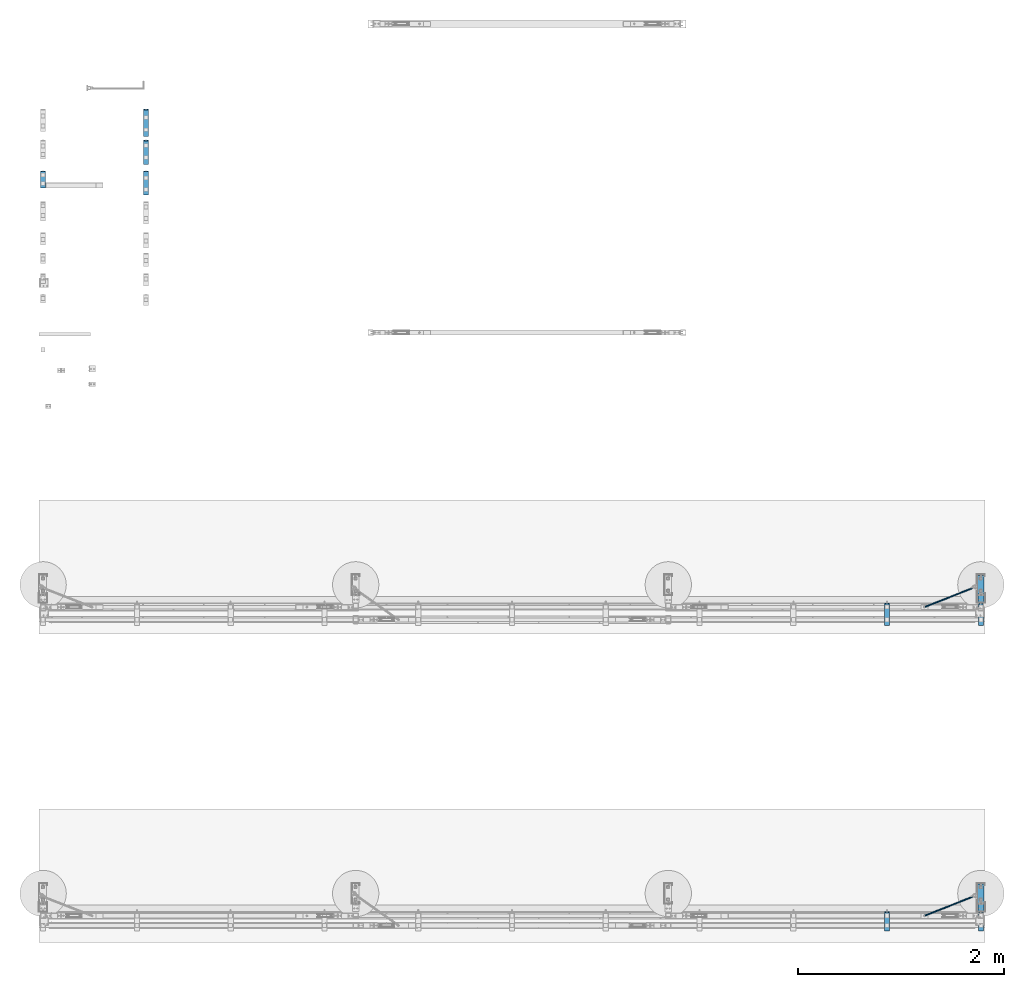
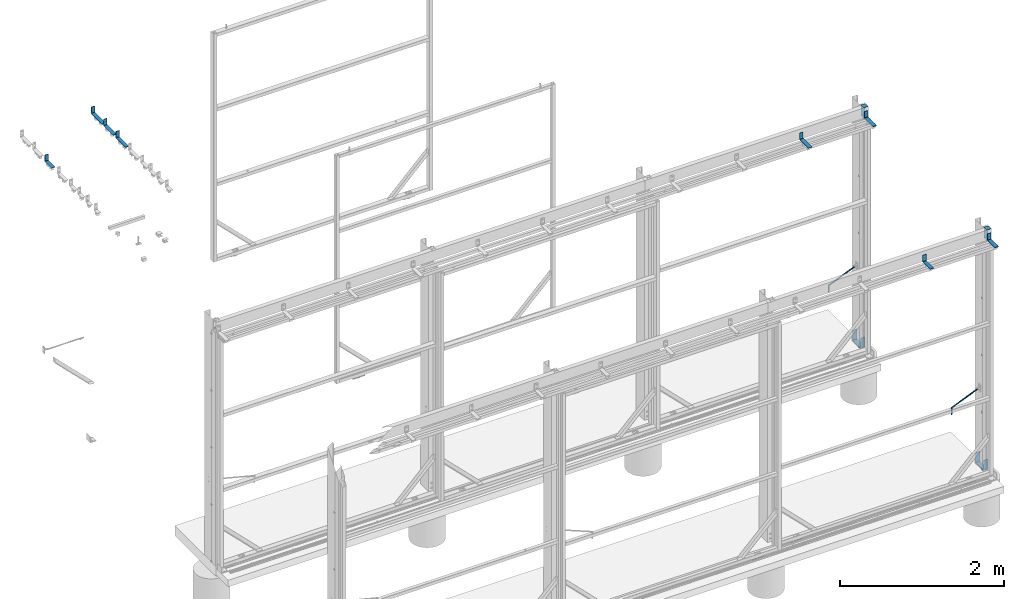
# One storey, part 83 of 91: 14 beams, 14 elements without a shape of their own.
"""IFC2X3 building model written with IfcOpenShell, lengths in millimetres."""

import ifcopenshell
import ifcopenshell.guid

model = None  # the IFC model being written
_history = None  # IfcOwnerHistory: only IFC2X3 demands one
_inside = {}  # id of a spatial element -> (the spatial element, [elements in it])
_under = {}  # id of a project, library or spatial element -> (it, [spatial elements below it])
_declared = {}  # id of a project -> (the project, [libraries it declares])
_typed = {}  # id of a type object -> (the type object, [elements of that type])
_made_of = {}  # id of a material, layer set ... -> (it, [elements and type objects made of it])


def new_model(schema):
    """Start an empty IFC model of exactly this schema.

    Asked for "IFC4X3", IfcOpenShell would pick the latest addendum, in which some entities
    have other attributes; the version numbers below select the first issue.
    IFC2X3 requires an IfcOwnerHistory on every rooted entity: one is made here for all.
    """
    global model, _history
    if schema == "IFC4X3":
        model = ifcopenshell.file(schema_version=(4, 3, 0, 0))
    else:
        model = ifcopenshell.file(schema=schema)
    _inside.clear()
    _under.clear()
    _declared.clear()
    _typed.clear()
    _made_of.clear()
    _history = None
    if model.schema == "IFC2X3":
        org = make("IfcOrganization", Name="unknown")
        user = make(
            "IfcPersonAndOrganization",
            ThePerson=make("IfcPerson", FamilyName="unknown"),
            TheOrganization=org,
        )
        app = make(
            "IfcApplication",
            ApplicationDeveloper=org,
            Version="unknown",
            ApplicationFullName="unknown",
            ApplicationIdentifier="unknown",
        )
        _history = make(
            "IfcOwnerHistory",
            OwningUser=user,
            OwningApplication=app,
            ChangeAction="ADDED",
            CreationDate=0,
        )
    return model


def make(cls, **values):
    """One entity of the class cls with the attributes given. An attribute that is None is left unset."""
    return model.create_entity(
        cls, **{name: value for name, value in values.items() if value is not None}
    )


def rooted(cls, **values):
    """An entity with a GlobalId (a new one), such as an element, a storey or a relation."""
    return make(cls, GlobalId=ifcopenshell.guid.new(), OwnerHistory=_history, **values)


def si_unit(unit_type, name, prefix=None):
    """IfcSIUnit, for example si_unit("LENGTHUNIT", "METRE", prefix="MILLI")."""
    return make("IfcSIUnit", UnitType=unit_type, Prefix=prefix, Name=name)


def assignment(units):
    """IfcUnitAssignment: the units of a project."""
    return None if units is None else make("IfcUnitAssignment", Units=units)


def point(xyz):
    """IfcCartesianPoint."""
    return None if xyz is None else make("IfcCartesianPoint", Coordinates=xyz)


def direction(xyz):
    """IfcDirection."""
    return None if xyz is None else make("IfcDirection", DirectionRatios=xyz)


def frame(location, z_axis=None, x_axis=None):
    """IfcAxis2Placement3D, a coordinate frame: its origin and axes. An axis left out is left unset."""
    return make(
        "IfcAxis2Placement3D",
        Location=point(location),
        Axis=direction(z_axis),
        RefDirection=direction(x_axis),
    )


def origin_with_axes():
    """The frame at (0, 0, 0) with the z axis (0, 0, 1) and the x axis (1, 0, 0) written out."""
    return frame((0.0, 0.0, 0.0), z_axis=(0.0, 0.0, 1.0), x_axis=(1.0, 0.0, 0.0))


def place(relative_to, where):
    """IfcLocalPlacement: puts the frame where relative to a parent placement (None: the world)."""
    return make(
        "IfcLocalPlacement", PlacementRelTo=relative_to, RelativePlacement=where
    )


def context(
    kind, dimensions, precision=None, world=None, true_north=None, identifier=None
):
    """IfcGeometricRepresentationContext, for example the 3D "Model" context."""
    return make(
        "IfcGeometricRepresentationContext",
        ContextIdentifier=identifier,
        ContextType=kind,
        CoordinateSpaceDimension=dimensions,
        Precision=precision,
        WorldCoordinateSystem=world,
        TrueNorth=true_north,
    )


def subcontext(parent, identifier, kind, view, scale=None):
    """IfcGeometricRepresentationSubContext, for example "Body" below "Model"."""
    return make(
        "IfcGeometricRepresentationSubContext",
        ContextIdentifier=identifier,
        ContextType=kind,
        ParentContext=parent,
        TargetScale=scale,
        TargetView=view,
    )


def project(units=None, contexts=None):
    """IfcProject with its units and contexts."""
    return rooted(
        "IfcProject",
        Name="project",
        RepresentationContexts=contexts,
        UnitsInContext=assignment(units),
    )


def spatial(cls, under=None, at=None, **own):
    """A site, building, storey or space (cls), placed at a placement, below another one or the project."""
    s = rooted(cls, ObjectPlacement=at, **own)
    if under is not None:
        _under.setdefault(under.id(), (under, []))[1].append(s)
    return s


def faces_of(points, faces, orient=None, outer=None):
    """IfcFace entities. A face is a list of loops; a loop is a list of indices into points, from 0.

    orient and outer hold one flag for each loop. By default every Orientation is true, the
    first loop of a face is its IfcFaceOuterBound and the others are IfcFaceBound.
    """
    made = []
    for i, loops in enumerate(faces):
        bounds = []
        for j, loop in enumerate(loops):
            is_outer = j == 0 if outer is None else outer[i][j]
            bounds.append(
                make(
                    "IfcFaceOuterBound" if is_outer else "IfcFaceBound",
                    Bound=make("IfcPolyLoop", Polygon=[points[k] for k in loop]),
                    Orientation=True if orient is None else orient[i][j],
                )
            )
        made.append(make("IfcFace", Bounds=bounds))
    return made


def faceted_brep(points, faces, orient=None, outer=None, voids=None):
    """IfcFacetedBrep: a solid bounded by flat faces; with voids (closed shells), ...WithVoids."""
    shared = [point(p) for p in points]
    hull = make("IfcClosedShell", CfsFaces=faces_of(shared, faces, orient, outer))
    if voids is None:
        return make("IfcFacetedBrep", Outer=hull)
    return make(
        "IfcFacetedBrepWithVoids",
        Outer=hull,
        Voids=[
            make(cls, CfsFaces=faces_of(shared, fs, o, b)) for cls, fs, o, b in voids
        ],
    )


def shape(context_of_items, identifier, shape_type, items):
    """IfcShapeRepresentation: the items that make up one representation, for example the "Body"."""
    return make(
        "IfcShapeRepresentation",
        ContextOfItems=context_of_items,
        RepresentationIdentifier=identifier,
        RepresentationType=shape_type,
        Items=items,
    )


def material(Name=None, Category=None):
    """IfcMaterial."""
    return make("IfcMaterial", Name=Name, Category=Category)


def made_of(thing, what):
    """Note that an element or type object is made of a material, layer set ...; save() writes the relation."""
    if what is not None:
        _made_of.setdefault(what.id(), (what, []))[1].append(thing)
    return thing


def type_object(cls, material=None, **own):
    """A type object (cls), such as IfcWallType, which elements share."""
    return made_of(rooted(cls, **own), material)


def element(
    cls,
    number,
    at=None,
    inside=None,
    cuts=None,
    type_object=None,
    material=None,
    context=None,
    identifier="Body",
    shape_type=None,
    held_by="IfcProductDefinitionShape",
    body=None,
    shapes=None,
    **own,
):
    """One element of the class cls, such as IfcWall. Its Tag is "e" and its number.

    at: its placement. inside: the storey or other place that contains it. cuts: it is an
    opening in that element (IfcRelVoidsElement). A single representation is given by context,
    identifier, shape_type and body (its items); several are given by shapes. held_by: the class
    of the entity that holds the representations. save() writes the other relations.
    """
    e = rooted(cls, Tag="e%d" % number, ObjectPlacement=at, **own)
    if body is not None:
        shapes = [shape(context, identifier, shape_type, body)]
    if shapes is not None:
        e.Representation = make(held_by, Representations=shapes)
    if inside is not None:
        _inside.setdefault(inside.id(), (inside, []))[1].append(e)
    if cuts is not None:
        rooted(
            "IfcRelVoidsElement", RelatingBuildingElement=cuts, RelatedOpeningElement=e
        )
    if type_object is not None:
        _typed.setdefault(type_object.id(), (type_object, []))[1].append(e)
    return made_of(e, material)


def aggregate(whole, parts):
    """IfcRelAggregates: a whole, such as a stair, and the parts it consists of."""
    return rooted("IfcRelAggregates", RelatingObject=whole, RelatedObjects=parts)


def save(model, path):
    """Write the relations noted so far, then the file.

    IfcRelAggregates (storeys below a building ...), IfcRelContainedInSpatialStructure (elements
    in a storey), IfcRelDefinesByType, IfcRelAssociatesMaterial and IfcRelDeclares: one each for
    every whole, place, type object, material and project.
    """
    for whole, parts in _under.values():
        aggregate(whole, parts)
    for where, things in _inside.values():
        rooted(
            "IfcRelContainedInSpatialStructure",
            RelatedElements=things,
            RelatingStructure=where,
        )
    for kind, things in _typed.values():
        rooted("IfcRelDefinesByType", RelatedObjects=things, RelatingType=kind)
    for what, things in _made_of.values():
        rooted("IfcRelAssociatesMaterial", RelatedObjects=things, RelatingMaterial=what)
    for by, libraries in _declared.values():
        rooted("IfcRelDeclares", RelatingContext=by, RelatedDefinitions=libraries)
    model.write(path)


model = new_model("IFC2X3")

# Units and contexts
model_context = context("Model", 3, precision=1e-05, world=origin_with_axes())
body_context = subcontext(model_context, "Body", "Model", "MODEL_VIEW")
ifc_project = project(units=[si_unit("LENGTHUNIT", "METRE", prefix="MILLI"), si_unit("AREAUNIT", "SQUARE_METRE"), si_unit("VOLUMEUNIT", "CUBIC_METRE"), si_unit("MASSUNIT", "GRAM", prefix="KILO"), si_unit("TIMEUNIT", "SECOND"), si_unit("PLANEANGLEUNIT", "RADIAN"), si_unit("SOLIDANGLEUNIT", "STERADIAN"), si_unit("THERMODYNAMICTEMPERATUREUNIT", "DEGREE_CELSIUS"), si_unit("LUMINOUSINTENSITYUNIT", "LUMEN")], contexts=[model_context])

# Site, building, storey
site_placement = place(None, origin_with_axes())
site = spatial("IfcSite", under=ifc_project, at=site_placement, Name="Undefined", CompositionType="ELEMENT")
building_placement = place(site_placement, origin_with_axes())
building = spatial("IfcBuilding", under=site, at=building_placement, Name="Undefined", CompositionType="ELEMENT")
storey_placement = place(building_placement, origin_with_axes())
storey = spatial("IfcBuildingStorey", under=building, at=storey_placement, Name="Undefined", CompositionType="ELEMENT", Elevation=0.0)

# Assembly, beam
assembly_1_placement = place(storey_placement, origin_with_axes())
assembly_1 = element("IfcElementAssembly", 1, at=assembly_1_placement, inside=storey, Name="SLIDING DOOR BRACKET", AssemblyPlace="NOTDEFINED", PredefinedType="RIGID_FRAME")
ifc_material_1 = material(Name="STEEL/250")
beam_type_1 = type_object("IfcBeamType", Name="FL6*50", PredefinedType="NOTDEFINED")
beam_1_placement = place(assembly_1_placement, frame((-115795.84, 92549.15, 3541.0), z_axis=(1.0, 0.0, 0.0), x_axis=(0.0, 0.0, -1.0)))
beam_1 = element("IfcBeam", 2, at=beam_1_placement, type_object=beam_type_1, material=ifc_material_1, Name="SLIDING DOOR BRACKET", ObjectType="FL6*50", context=body_context, shape_type="Brep", body=[
    faceted_brep([(0.0, 3.0, -25.0), (0.0, 3.0, 25.0), (88.0, 3.0, 25.0), (88.0000000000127, 3.00000000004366, -25.0), (0.0, -3.0, 25.0), (0.0, -3.0, -25.0), (88.0, -3.0, -25.0), (88.0, -3.0, 25.0), (93.9999999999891, 1.39230484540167, 25.0), (93.9999999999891, 1.39230484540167, -25.0), (90.9999999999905, -3.8038475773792, -25.0), (90.9999999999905, -3.8038475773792, 25.0), (93.1961524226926, -6.00000000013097, -25.0), (93.1961524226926, -6.00000000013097, 25.0), (98.3923048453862, -3.00000000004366, 25.0), (98.3923048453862, -3.00000000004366, -25.0), (93.9999999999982, -9.00000000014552, -25.0), (93.9999999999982, -9.00000000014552, 25.0), (100.000000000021, -9.00000000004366, 25.0), (100.0, -9.0, -25.0), (100.0, -264.0, 25.0), (100.0, -264.0, -25.0), (94.0, -264.0, 25.0), (94.0, -264.0, -25.0)], [[[0, 1, 2, 3]], [[4, 5, 6, 7]], [[5, 4, 1, 0]], [[3, 2, 8, 9]], [[7, 6, 10, 11]], [[10, 12, 13, 11]], [[8, 14, 15, 9]], [[12, 16, 17, 13]], [[14, 18, 19, 15]], [[19, 18, 20, 21]], [[18, 14, 8, 2, 1, 4, 7, 11, 13, 17, 22, 20]], [[17, 16, 23, 22]], [[16, 12, 10, 6, 5, 0, 3, 9, 15, 19, 21, 23]], [[22, 23, 21, 20]]]),
])
aggregate(assembly_1, [beam_1])

assembly_2_placement = place(storey_placement, origin_with_axes())
assembly_2 = element("IfcElementAssembly", 3, at=assembly_2_placement, inside=storey, Name="SLIDING DOOR BRACKET", AssemblyPlace="NOTDEFINED", PredefinedType="RIGID_FRAME")
beam_2_placement = place(assembly_2_placement, frame((-115795.84, 92249.15, 3541.0), z_axis=(1.0, 0.0, 0.0), x_axis=(0.0, 0.0, -1.0)))
beam_2 = element("IfcBeam", 4, at=beam_2_placement, type_object=beam_type_1, material=ifc_material_1, Name="SLIDING DOOR BRACKET", ObjectType="FL6*50", context=body_context, shape_type="Brep", body=[
    faceted_brep([(0.0, 3.0, -25.0), (0.0, 3.0, 25.0), (88.0, 3.0, 25.0), (88.0000000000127, 3.00000000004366, -25.0), (0.0, -3.0, 25.0), (0.0, -3.0, -25.0), (88.0, -3.0, -25.0), (88.0, -3.0, 25.0), (93.9999999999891, 1.39230484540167, 25.0), (93.9999999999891, 1.39230484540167, -25.0), (90.9999999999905, -3.8038475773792, -25.0), (90.9999999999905, -3.8038475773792, 25.0), (93.1961524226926, -6.00000000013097, -25.0), (93.1961524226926, -6.00000000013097, 25.0), (98.3923048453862, -3.00000000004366, 25.0), (98.3923048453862, -3.00000000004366, -25.0), (93.9999999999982, -9.00000000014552, -25.0), (93.9999999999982, -9.00000000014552, 25.0), (100.000000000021, -9.00000000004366, 25.0), (100.0, -9.0, -25.0), (100.0, -235.0, 25.0), (100.0, -235.0, -25.0), (94.0, -235.0, 25.0), (94.0, -235.0, -25.0)], [[[0, 1, 2, 3]], [[4, 5, 6, 7]], [[5, 4, 1, 0]], [[3, 2, 8, 9]], [[7, 6, 10, 11]], [[10, 12, 13, 11]], [[8, 14, 15, 9]], [[12, 16, 17, 13]], [[14, 18, 19, 15]], [[19, 18, 20, 21]], [[18, 14, 8, 2, 1, 4, 7, 11, 13, 17, 22, 20]], [[17, 16, 23, 22]], [[16, 12, 10, 6, 5, 0, 3, 9, 15, 19, 21, 23]], [[22, 23, 21, 20]]]),
])
aggregate(assembly_2, [beam_2])

assembly_3_placement = place(storey_placement, origin_with_axes())
assembly_3 = element("IfcElementAssembly", 5, at=assembly_3_placement, inside=storey, Name="SLIDING DOOR BRACKET", AssemblyPlace="NOTDEFINED", PredefinedType="RIGID_FRAME")
beam_3_placement = place(assembly_3_placement, frame((-115795.84, 91949.15, 3541.0), z_axis=(1.0, 0.0, 0.0), x_axis=(0.0, 0.0, -1.0)))
beam_3 = element("IfcBeam", 6, at=beam_3_placement, type_object=beam_type_1, material=ifc_material_1, Name="SLIDING DOOR BRACKET", ObjectType="FL6*50", context=body_context, shape_type="Brep", body=[
    faceted_brep([(0.0, 3.0, -25.0), (0.0, 3.0, 25.0), (88.0, 3.0, 25.0), (88.0000000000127, 3.00000000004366, -25.0), (0.0, -3.0, 25.0), (0.0, -3.0, -25.0), (88.0, -3.0, -25.0), (88.0, -3.0, 25.0), (93.9999999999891, 1.39230484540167, 25.0), (93.9999999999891, 1.39230484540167, -25.0), (90.9999999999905, -3.8038475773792, -25.0), (90.9999999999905, -3.8038475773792, 25.0), (93.1961524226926, -6.00000000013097, -25.0), (93.1961524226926, -6.00000000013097, 25.0), (98.3923048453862, -3.00000000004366, 25.0), (98.3923048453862, -3.00000000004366, -25.0), (93.9999999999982, -9.00000000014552, -25.0), (93.9999999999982, -9.00000000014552, 25.0), (100.000000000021, -9.00000000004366, 25.0), (100.0, -9.0, -25.0), (100.0, -234.0, 25.0), (100.0, -234.0, -25.0), (94.0, -234.0, 25.0), (94.0, -234.0, -25.0)], [[[0, 1, 2, 3]], [[4, 5, 6, 7]], [[5, 4, 1, 0]], [[3, 2, 8, 9]], [[7, 6, 10, 11]], [[10, 12, 13, 11]], [[8, 14, 15, 9]], [[12, 16, 17, 13]], [[14, 18, 19, 15]], [[19, 18, 20, 21]], [[18, 14, 8, 2, 1, 4, 7, 11, 13, 17, 22, 20]], [[17, 16, 23, 22]], [[16, 12, 10, 6, 5, 0, 3, 9, 15, 19, 21, 23]], [[22, 23, 21, 20]]]),
])
aggregate(assembly_3, [beam_3])

assembly_4_placement = place(storey_placement, origin_with_axes())
assembly_4 = element("IfcElementAssembly", 7, at=assembly_4_placement, inside=storey, Name="SLIDING DOOR BRACKET", AssemblyPlace="NOTDEFINED", PredefinedType="RIGID_FRAME")
beam_4_placement = place(assembly_4_placement, frame((-116795.84, 91949.15, 3541.0), z_axis=(1.0, 0.0, 0.0), x_axis=(0.0, 0.0, -1.0)))
beam_4 = element("IfcBeam", 8, at=beam_4_placement, type_object=beam_type_1, material=ifc_material_1, Name="SLIDING DOOR BRACKET", ObjectType="FL6*50", context=body_context, shape_type="Brep", body=[
    faceted_brep([(0.0, 3.0, -25.0), (0.0, 3.0, 25.0), (88.0, 3.0, 25.0), (88.0000000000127, 3.00000000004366, -25.0), (0.0, -3.0, 25.0), (0.0, -3.0, -25.0), (88.0, -3.0, -25.0), (88.0, -3.0, 25.0), (93.9999999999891, 1.39230484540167, 25.0), (93.9999999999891, 1.39230484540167, -25.0), (90.9999999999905, -3.8038475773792, -25.0), (90.9999999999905, -3.8038475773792, 25.0), (93.1961524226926, -6.00000000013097, -25.0), (93.1961524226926, -6.00000000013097, 25.0), (98.3923048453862, -3.00000000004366, 25.0), (98.3923048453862, -3.00000000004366, -25.0), (93.9999999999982, -9.00000000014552, -25.0), (93.9999999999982, -9.00000000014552, 25.0), (100.000000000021, -9.00000000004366, 25.0), (100.0, -9.0, -25.0), (100.0, -165.0, 25.0), (100.0, -165.0, -25.0), (94.0, -165.0, 25.0), (94.0, -165.0, -25.0)], [[[0, 1, 2, 3]], [[4, 5, 6, 7]], [[5, 4, 1, 0]], [[3, 2, 8, 9]], [[7, 6, 10, 11]], [[10, 12, 13, 11]], [[8, 14, 15, 9]], [[12, 16, 17, 13]], [[14, 18, 19, 15]], [[19, 18, 20, 21]], [[18, 14, 8, 2, 1, 4, 7, 11, 13, 17, 22, 20]], [[17, 16, 23, 22]], [[16, 12, 10, 6, 5, 0, 3, 9, 15, 19, 21, 23]], [[22, 23, 21, 20]]]),
])
aggregate(assembly_4, [beam_4])

assembly_5_placement = place(storey_placement, origin_with_axes())
assembly_5 = element("IfcElementAssembly", 9, at=assembly_5_placement, inside=storey, Name="DOOR BRACKET", AssemblyPlace="NOTDEFINED", PredefinedType="RIGID_FRAME")
beam_5_placement = place(assembly_5_placement, frame((-108594.59, 87749.15, 3544.0), z_axis=(1.0, 0.0, 0.0), x_axis=(0.0, 0.0, -1.0)))
beam_5 = element("IfcBeam", 10, at=beam_5_placement, type_object=beam_type_1, material=ifc_material_1, Name="DOOR BRACKET", ObjectType="FL6*50", context=body_context, shape_type="Brep", body=[
    faceted_brep([(0.0, 3.0, -25.0), (0.0, 3.0, 25.0), (88.0, 3.0, 25.0), (88.0000000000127, 3.00000000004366, -25.0), (0.0, -3.0, 25.0), (0.0, -3.0, -25.0), (88.0, -3.0, -25.0), (88.0, -3.0, 25.0), (93.9999999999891, 1.39230484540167, 25.0), (93.9999999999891, 1.39230484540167, -25.0), (90.9999999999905, -3.8038475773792, -25.0), (90.9999999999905, -3.8038475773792, 25.0), (93.1961524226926, -6.00000000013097, -25.0), (93.1961524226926, -6.00000000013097, 25.0), (98.3923048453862, -3.00000000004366, 25.0), (98.3923048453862, -3.00000000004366, -25.0), (93.9999999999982, -9.00000000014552, -25.0), (93.9999999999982, -9.00000000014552, 25.0), (100.000000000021, -9.00000000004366, 25.0), (100.0, -9.0, -25.0), (100.0, -215.0, 25.0), (100.0, -215.0, -25.0), (94.0, -215.0, 25.0), (94.0, -215.0, -25.0)], [[[0, 1, 2, 3]], [[4, 5, 6, 7]], [[5, 4, 1, 0]], [[3, 2, 8, 9]], [[7, 6, 10, 11]], [[10, 12, 13, 11]], [[8, 14, 15, 9]], [[12, 16, 17, 13]], [[14, 18, 19, 15]], [[19, 18, 20, 21]], [[18, 14, 8, 2, 1, 4, 7, 11, 13, 17, 22, 20]], [[17, 16, 23, 22]], [[16, 12, 10, 6, 5, 0, 3, 9, 15, 19, 21, 23]], [[22, 23, 21, 20]]]),
])
aggregate(assembly_5, [beam_5])

assembly_6_placement = place(storey_placement, origin_with_axes())
assembly_6 = element("IfcElementAssembly", 11, at=assembly_6_placement, inside=storey, Name="DOOR BRACKET", AssemblyPlace="NOTDEFINED", PredefinedType="RIGID_FRAME")
beam_6_placement = place(assembly_6_placement, frame((-107683.34, 87749.15, 3544.0), z_axis=(1.0, 0.0, 0.0), x_axis=(0.0, 0.0, -1.0)))
beam_6 = element("IfcBeam", 12, at=beam_6_placement, type_object=beam_type_1, material=ifc_material_1, Name="DOOR BRACKET", ObjectType="FL6*50", context=body_context, shape_type="Brep", body=[
    faceted_brep([(0.0, 3.0, -25.0), (0.0, 3.0, 25.0), (88.0, 3.0, 25.0), (88.0000000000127, 3.00000000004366, -25.0), (0.0, -3.0, 25.0), (0.0, -3.0, -25.0), (88.0, -3.0, -25.0), (88.0, -3.0, 25.0), (93.9999999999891, 1.39230484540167, 25.0), (93.9999999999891, 1.39230484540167, -25.0), (90.9999999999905, -3.8038475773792, -25.0), (90.9999999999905, -3.8038475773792, 25.0), (93.1961524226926, -6.00000000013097, -25.0), (93.1961524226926, -6.00000000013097, 25.0), (98.3923048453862, -3.00000000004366, 25.0), (98.3923048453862, -3.00000000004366, -25.0), (93.9999999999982, -9.00000000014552, -25.0), (93.9999999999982, -9.00000000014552, 25.0), (100.000000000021, -9.00000000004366, 25.0), (100.0, -9.0, -25.0), (100.0, -215.0, 25.0), (100.0, -215.0, -25.0), (94.0, -215.0, 25.0), (94.0, -215.0, -25.0)], [[[0, 1, 2, 3]], [[4, 5, 6, 7]], [[5, 4, 1, 0]], [[3, 2, 8, 9]], [[7, 6, 10, 11]], [[10, 12, 13, 11]], [[8, 14, 15, 9]], [[12, 16, 17, 13]], [[14, 18, 19, 15]], [[19, 18, 20, 21]], [[18, 14, 8, 2, 1, 4, 7, 11, 13, 17, 22, 20]], [[17, 16, 23, 22]], [[16, 12, 10, 6, 5, 0, 3, 9, 15, 19, 21, 23]], [[22, 23, 21, 20]]]),
])
aggregate(assembly_6, [beam_6])

assembly_7_placement = place(storey_placement, origin_with_axes())
assembly_7 = element("IfcElementAssembly", 13, at=assembly_7_placement, inside=storey, Name="DOOR BRACKET", AssemblyPlace="NOTDEFINED", PredefinedType="RIGID_FRAME")
beam_7_placement = place(assembly_7_placement, frame((-108594.59, 84749.15, 3544.0), z_axis=(1.0, 0.0, 0.0), x_axis=(0.0, 0.0, -1.0)))
beam_7 = element("IfcBeam", 14, at=beam_7_placement, type_object=beam_type_1, material=ifc_material_1, Name="DOOR BRACKET", ObjectType="FL6*50", context=body_context, shape_type="Brep", body=[
    faceted_brep([(0.0, 3.0, -25.0), (0.0, 3.0, 25.0), (88.0, 3.0, 25.0), (88.0000000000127, 3.00000000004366, -25.0), (0.0, -3.0, 25.0), (0.0, -3.0, -25.0), (88.0, -3.0, -25.0), (88.0, -3.0, 25.0), (93.9999999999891, 1.39230484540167, 25.0), (93.9999999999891, 1.39230484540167, -25.0), (90.9999999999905, -3.8038475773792, -25.0), (90.9999999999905, -3.8038475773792, 25.0), (93.1961524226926, -6.00000000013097, -25.0), (93.1961524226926, -6.00000000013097, 25.0), (98.3923048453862, -3.00000000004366, 25.0), (98.3923048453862, -3.00000000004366, -25.0), (93.9999999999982, -9.00000000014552, -25.0), (93.9999999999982, -9.00000000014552, 25.0), (100.000000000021, -9.00000000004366, 25.0), (100.0, -9.0, -25.0), (100.0, -185.0, 25.0), (100.0, -185.0, -25.0), (94.0, -185.0, 25.0), (94.0, -185.0, -25.0)], [[[0, 1, 2, 3]], [[4, 5, 6, 7]], [[5, 4, 1, 0]], [[3, 2, 8, 9]], [[7, 6, 10, 11]], [[10, 12, 13, 11]], [[8, 14, 15, 9]], [[12, 16, 17, 13]], [[14, 18, 19, 15]], [[19, 18, 20, 21]], [[18, 14, 8, 2, 1, 4, 7, 11, 13, 17, 22, 20]], [[17, 16, 23, 22]], [[16, 12, 10, 6, 5, 0, 3, 9, 15, 19, 21, 23]], [[22, 23, 21, 20]]]),
])
aggregate(assembly_7, [beam_7])

assembly_8_placement = place(storey_placement, origin_with_axes())
assembly_8 = element("IfcElementAssembly", 15, at=assembly_8_placement, inside=storey, Name="DOOR BRACKET", AssemblyPlace="NOTDEFINED", PredefinedType="RIGID_FRAME")
beam_8_placement = place(assembly_8_placement, frame((-107683.34, 84749.15, 3544.0), z_axis=(1.0, 0.0, 0.0), x_axis=(0.0, 0.0, -1.0)))
beam_8 = element("IfcBeam", 16, at=beam_8_placement, type_object=beam_type_1, material=ifc_material_1, Name="DOOR BRACKET", ObjectType="FL6*50", context=body_context, shape_type="Brep", body=[
    faceted_brep([(0.0, 3.0, -25.0), (0.0, 3.0, 25.0), (88.0, 3.0, 25.0), (88.0000000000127, 3.00000000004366, -25.0), (0.0, -3.0, 25.0), (0.0, -3.0, -25.0), (88.0, -3.0, -25.0), (88.0, -3.0, 25.0), (93.9999999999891, 1.39230484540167, 25.0), (93.9999999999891, 1.39230484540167, -25.0), (90.9999999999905, -3.8038475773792, -25.0), (90.9999999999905, -3.8038475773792, 25.0), (93.1961524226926, -6.00000000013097, -25.0), (93.1961524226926, -6.00000000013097, 25.0), (98.3923048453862, -3.00000000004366, 25.0), (98.3923048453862, -3.00000000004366, -25.0), (93.9999999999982, -9.00000000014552, -25.0), (93.9999999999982, -9.00000000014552, 25.0), (100.000000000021, -9.00000000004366, 25.0), (100.0, -9.0, -25.0), (100.0, -185.0, 25.0), (100.0, -185.0, -25.0), (94.0, -185.0, 25.0), (94.0, -185.0, -25.0)], [[[0, 1, 2, 3]], [[4, 5, 6, 7]], [[5, 4, 1, 0]], [[3, 2, 8, 9]], [[7, 6, 10, 11]], [[10, 12, 13, 11]], [[8, 14, 15, 9]], [[12, 16, 17, 13]], [[14, 18, 19, 15]], [[19, 18, 20, 21]], [[18, 14, 8, 2, 1, 4, 7, 11, 13, 17, 22, 20]], [[17, 16, 23, 22]], [[16, 12, 10, 6, 5, 0, 3, 9, 15, 19, 21, 23]], [[22, 23, 21, 20]]]),
])
aggregate(assembly_8, [beam_8])

assembly_9_placement = place(storey_placement, origin_with_axes())
assembly_9 = element("IfcElementAssembly", 17, at=assembly_9_placement, inside=storey, Name="ROD", AssemblyPlace="NOTDEFINED", PredefinedType="RIGID_FRAME")
beam_type_2 = type_object("IfcBeamType", Name="D12", PredefinedType="NOTDEFINED")
beam_9_placement = place(assembly_9_placement, frame((-108233.217371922, 87712.1870489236, 1062.33560984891), z_axis=(-0.931124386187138, -0.364701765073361, 0.0), x_axis=(0.0, 0.0, 1.0)))
beam_9 = element("IfcBeam", 18, at=beam_9_placement, type_object=beam_type_2, material=ifc_material_1, Name="ROD", ObjectType="D12", context=body_context, shape_type="Brep", body=[
    faceted_brep([(0.0, -6.0, 0.0), (-1.13686837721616e-12, -4.24264068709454, -4.24264068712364), (93.5000000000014, -4.24264068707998, -4.2426406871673), (93.5000000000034, -5.99999999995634, -2.91038304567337e-11), (-2.72848410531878e-12, 1.45519152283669e-11, -5.99999999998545), (93.5, 2.91038304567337e-11, -6.00000000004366), (-2.50111042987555e-12, 4.24264068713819, -4.24264068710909), (93.5000000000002, 4.2426406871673, -4.24264068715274), (0.0, 6.00000000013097, 0.0), (93.5000000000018, 6.0000000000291, -4.36557456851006e-11), (1.13686837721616e-12, 4.24264068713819, 4.24264068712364), (93.5000000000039, 4.24264068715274, 4.24264068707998), (2.72848410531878e-12, 1.45519152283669e-11, 5.99999999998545), (93.5000000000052, 4.36557456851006e-11, 5.99999999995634), (2.50111042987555e-12, -4.24264068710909, 4.24264068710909), (93.500000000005, -4.24264068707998, 4.24264068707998), (95.7573593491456, -4.24264068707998, -4.2426406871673), (100.000000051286, -5.9999999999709, -4.36557456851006e-11), (94.0, 2.91038304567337e-11, -6.00000000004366), (95.7573592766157, 4.2426406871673, -4.24264068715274), (99.9999999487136, 6.0000000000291, -4.36557456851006e-11), (104.242640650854, 4.24264068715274, 4.24264068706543), (106.0, 4.36557456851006e-11, 5.99999999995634), (104.242640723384, -4.24264068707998, 4.24264068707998), (95.7573593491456, -4.24264066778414, -6.50000003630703), (100.000000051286, -5.99999994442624, -6.50000005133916), (94.0, 4.32191882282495e-09, -6.50000000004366), (95.7573592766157, 4.24264070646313, -6.49999996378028), (99.9999999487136, 6.00000005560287, -6.49999994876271), (104.242640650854, 4.24264077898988, -6.49999996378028), (106.0, 1.06883817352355e-07, -6.50000000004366), (104.242640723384, -4.2426405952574, -6.50000003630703), (95.7573593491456, -4.24263644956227, -499.999970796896), (100.000000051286, -5.99999572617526, -499.999970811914), (94.0, 4.22252924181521e-06, -499.999970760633), (95.7573592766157, 4.24264492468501, -499.99997072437), (99.9999999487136, 6.00000427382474, -499.999970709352), (104.242640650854, 4.24264499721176, -499.999970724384), (106.0, 4.32510569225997e-06, -499.999970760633), (104.242640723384, -4.24263637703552, -499.999970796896)], [[[0, 1, 2, 3]], [[1, 4, 5, 2]], [[4, 6, 7, 5]], [[6, 8, 9, 7]], [[8, 10, 11, 9]], [[10, 12, 13, 11]], [[12, 14, 15, 13]], [[14, 0, 3, 15]], [[14, 12, 10, 8, 6, 4, 1, 0]], [[3, 2, 16, 17]], [[2, 5, 18, 16]], [[5, 7, 19, 18]], [[7, 9, 20, 19]], [[9, 11, 21, 20]], [[11, 13, 22, 21]], [[13, 15, 23, 22]], [[15, 3, 17, 23]], [[17, 16, 24, 25]], [[16, 18, 26, 24]], [[18, 19, 27, 26]], [[19, 20, 28, 27]], [[20, 21, 29, 28]], [[21, 22, 30, 29]], [[22, 23, 31, 30]], [[23, 17, 25, 31]], [[25, 24, 32, 33]], [[24, 26, 34, 32]], [[26, 27, 35, 34]], [[27, 28, 36, 35]], [[28, 29, 37, 36]], [[29, 30, 38, 37]], [[30, 31, 39, 38]], [[31, 25, 33, 39]], [[34, 35, 36, 37, 38, 39, 33, 32]]]),
])
aggregate(assembly_9, [beam_9])

assembly_10_placement = place(storey_placement, origin_with_axes())
assembly_10 = element("IfcElementAssembly", 19, at=assembly_10_placement, inside=storey, Name="ROD", AssemblyPlace="NOTDEFINED", PredefinedType="RIGID_FRAME")
beam_10_placement = place(assembly_10_placement, frame((-108233.217371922, 84712.1870489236, 1062.33560984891), z_axis=(-0.931124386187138, -0.364701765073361, 0.0), x_axis=(0.0, 0.0, 1.0)))
beam_10 = element("IfcBeam", 20, at=beam_10_placement, type_object=beam_type_2, material=ifc_material_1, Name="ROD", ObjectType="D12", context=body_context, shape_type="Brep", body=[
    faceted_brep([(0.0, -6.0, 0.0), (-1.13686837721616e-12, -4.24264068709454, -4.24264068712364), (93.5000000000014, -4.24264068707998, -4.2426406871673), (93.5000000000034, -5.99999999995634, -2.91038304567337e-11), (-2.72848410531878e-12, 1.45519152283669e-11, -5.99999999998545), (93.5, 2.91038304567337e-11, -6.00000000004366), (-2.50111042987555e-12, 4.24264068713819, -4.24264068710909), (93.5000000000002, 4.2426406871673, -4.24264068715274), (0.0, 6.00000000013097, 0.0), (93.5000000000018, 6.0000000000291, -4.36557456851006e-11), (1.13686837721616e-12, 4.24264068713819, 4.24264068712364), (93.5000000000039, 4.24264068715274, 4.24264068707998), (2.72848410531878e-12, 1.45519152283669e-11, 5.99999999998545), (93.5000000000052, 4.36557456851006e-11, 5.99999999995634), (2.50111042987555e-12, -4.24264068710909, 4.24264068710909), (93.500000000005, -4.24264068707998, 4.24264068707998), (95.7573593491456, -4.24264068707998, -4.2426406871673), (100.000000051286, -5.9999999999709, -4.36557456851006e-11), (94.0, 2.91038304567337e-11, -6.00000000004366), (95.7573592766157, 4.2426406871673, -4.24264068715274), (99.9999999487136, 6.0000000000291, -4.36557456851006e-11), (104.242640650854, 4.24264068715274, 4.24264068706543), (106.0, 4.36557456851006e-11, 5.99999999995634), (104.242640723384, -4.24264068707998, 4.24264068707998), (95.7573593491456, -4.24264066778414, -6.50000003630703), (100.000000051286, -5.99999994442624, -6.50000005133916), (94.0, 4.32191882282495e-09, -6.50000000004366), (95.7573592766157, 4.24264070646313, -6.49999996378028), (99.9999999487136, 6.00000005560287, -6.49999994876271), (104.242640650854, 4.24264077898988, -6.49999996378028), (106.0, 1.06883817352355e-07, -6.50000000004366), (104.242640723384, -4.2426405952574, -6.50000003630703), (95.7573593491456, -4.24263644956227, -499.999970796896), (100.000000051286, -5.99999572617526, -499.999970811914), (94.0, 4.22252924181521e-06, -499.999970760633), (95.7573592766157, 4.24264492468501, -499.99997072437), (99.9999999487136, 6.00000427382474, -499.999970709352), (104.242640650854, 4.24264499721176, -499.999970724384), (106.0, 4.32510569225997e-06, -499.999970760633), (104.242640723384, -4.24263637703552, -499.999970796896)], [[[0, 1, 2, 3]], [[1, 4, 5, 2]], [[4, 6, 7, 5]], [[6, 8, 9, 7]], [[8, 10, 11, 9]], [[10, 12, 13, 11]], [[12, 14, 15, 13]], [[14, 0, 3, 15]], [[14, 12, 10, 8, 6, 4, 1, 0]], [[3, 2, 16, 17]], [[2, 5, 18, 16]], [[5, 7, 19, 18]], [[7, 9, 20, 19]], [[9, 11, 21, 20]], [[11, 13, 22, 21]], [[13, 15, 23, 22]], [[15, 3, 17, 23]], [[17, 16, 24, 25]], [[16, 18, 26, 24]], [[18, 19, 27, 26]], [[19, 20, 28, 27]], [[20, 21, 29, 28]], [[21, 22, 30, 29]], [[22, 23, 31, 30]], [[23, 17, 25, 31]], [[25, 24, 32, 33]], [[24, 26, 34, 32]], [[26, 27, 35, 34]], [[27, 28, 36, 35]], [[28, 29, 37, 36]], [[29, 30, 38, 37]], [[30, 31, 39, 38]], [[31, 25, 33, 39]], [[34, 35, 36, 37, 38, 39, 33, 32]]]),
])
aggregate(assembly_10, [beam_10])

assembly_11_placement = place(storey_placement, origin_with_axes())
assembly_11 = element("IfcElementAssembly", 21, at=assembly_11_placement, inside=storey, Name="BASEPLATE", AssemblyPlace="NOTDEFINED", PredefinedType="RIGID_FRAME")
ifc_material_2 = material(Name="STEEL/450")
beam_type_3 = type_object("IfcBeamType", Name="PLT6*61", PredefinedType="NOTDEFINED")
beam_11_placement = place(assembly_11_placement, frame((-107683.34, 87831.55, 122.999999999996), z_axis=(1.0, 0.0, 0.0), x_axis=(0.0, 0.0, -1.0)))
beam_11 = element("IfcBeam", 22, at=beam_11_placement, type_object=beam_type_3, material=ifc_material_2, Name="BASEPLATE", ObjectType="PLT6*61", context=body_context, shape_type="Brep", body=[
    faceted_brep([(0.0, 3.0, -30.5), (0.0, 3.0, 30.5), (144.0, 3.0, 30.5), (143.999999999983, 3.00000000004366, -30.5), (0.0, -3.0, 30.5), (0.0, -3.0, -30.5), (144.0, -3.0, -30.5), (144.0, -3.0, 30.5), (146.500000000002, 3.66987298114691, 30.5), (146.500000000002, 3.66987298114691, -30.5), (149.500000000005, -1.52627944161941, -30.5), (149.500000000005, -1.52627944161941, 30.5), (153.526279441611, 2.50000000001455, -30.5), (153.526279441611, 2.50000000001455, 30.5), (148.330127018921, 5.50000000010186, 30.5), (148.330127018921, 5.50000000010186, -30.5), (155.000000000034, 8.00000000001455, -30.5), (155.000000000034, 8.00000000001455, 30.5), (149.000000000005, 8.00000000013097, 30.5), (149.0, 8.0, -30.5), (149.0, 186.200012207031, 30.5), (148.999999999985, 186.200012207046, -30.5), (155.0, 186.200012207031, -30.5), (155.0, 186.200012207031, 30.5), (148.330127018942, 188.700012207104, 30.5), (148.330127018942, 188.700012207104, -30.5), (153.526279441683, 191.700012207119, -30.5), (153.526279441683, 191.700012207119, 30.5), (149.500000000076, 195.726291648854, -30.5), (149.500000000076, 195.726291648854, 30.5), (146.500000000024, 190.530139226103, 30.5), (146.500000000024, 190.530139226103, -30.5), (144.000000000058, 197.200012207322, -30.5), (144.000000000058, 197.200012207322, 30.5), (143.999999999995, 191.20001220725, 30.5), (144.0, 191.200012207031, -30.5), (0.0, 191.200012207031, 30.5), (0.0, 191.200012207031, -30.5), (0.0, 197.200012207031, 30.5), (0.0, 197.200012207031, -30.5)], [[[0, 1, 2, 3]], [[4, 5, 6, 7]], [[5, 4, 1, 0]], [[3, 2, 8, 9]], [[7, 6, 10, 11]], [[10, 12, 13, 11]], [[8, 14, 15, 9]], [[12, 16, 17, 13]], [[14, 18, 19, 15]], [[19, 18, 20, 21]], [[17, 16, 22, 23]], [[21, 20, 24, 25]], [[23, 22, 26, 27]], [[26, 28, 29, 27]], [[24, 30, 31, 25]], [[28, 32, 33, 29]], [[30, 34, 35, 31]], [[35, 34, 36, 37]], [[34, 30, 24, 20, 18, 14, 8, 2, 1, 4, 7, 11, 13, 17, 23, 27, 29, 33, 38, 36]], [[33, 32, 39, 38]], [[32, 28, 26, 22, 16, 12, 10, 6, 5, 0, 3, 9, 15, 19, 21, 25, 31, 35, 37, 39]], [[38, 39, 37, 36]]]),
])
aggregate(assembly_11, [beam_11])

assembly_12_placement = place(storey_placement, origin_with_axes())
assembly_12 = element("IfcElementAssembly", 23, at=assembly_12_placement, inside=storey, Name="BASEPLATE", AssemblyPlace="NOTDEFINED", PredefinedType="RIGID_FRAME")
beam_12_placement = place(assembly_12_placement, frame((-107683.34, 84831.55, 122.999999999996), z_axis=(1.0, 0.0, 0.0), x_axis=(0.0, 0.0, -1.0)))
beam_12 = element("IfcBeam", 24, at=beam_12_placement, type_object=beam_type_3, material=ifc_material_2, Name="BASEPLATE", ObjectType="PLT6*61", context=body_context, shape_type="Brep", body=[
    faceted_brep([(0.0, 3.0, -30.5), (0.0, 3.0, 30.5), (144.0, 3.0, 30.5), (143.999999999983, 3.00000000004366, -30.5), (0.0, -3.0, 30.5), (0.0, -3.0, -30.5), (144.0, -3.0, -30.5), (144.0, -3.0, 30.5), (146.500000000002, 3.66987298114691, 30.5), (146.500000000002, 3.66987298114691, -30.5), (149.500000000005, -1.52627944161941, -30.5), (149.500000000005, -1.52627944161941, 30.5), (153.526279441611, 2.50000000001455, -30.5), (153.526279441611, 2.50000000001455, 30.5), (148.330127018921, 5.50000000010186, 30.5), (148.330127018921, 5.50000000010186, -30.5), (155.000000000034, 8.00000000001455, -30.5), (155.000000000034, 8.00000000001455, 30.5), (149.000000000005, 8.00000000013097, 30.5), (149.0, 8.0, -30.5), (149.0, 186.200012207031, 30.5), (148.999999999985, 186.200012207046, -30.5), (155.0, 186.200012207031, -30.5), (155.0, 186.200012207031, 30.5), (148.330127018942, 188.700012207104, 30.5), (148.330127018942, 188.700012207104, -30.5), (153.526279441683, 191.700012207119, -30.5), (153.526279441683, 191.700012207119, 30.5), (149.500000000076, 195.726291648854, -30.5), (149.500000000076, 195.726291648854, 30.5), (146.500000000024, 190.530139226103, 30.5), (146.500000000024, 190.530139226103, -30.5), (144.000000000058, 197.200012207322, -30.5), (144.000000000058, 197.200012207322, 30.5), (143.999999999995, 191.20001220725, 30.5), (144.0, 191.200012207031, -30.5), (0.0, 191.200012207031, 30.5), (0.0, 191.200012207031, -30.5), (0.0, 197.200012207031, 30.5), (0.0, 197.200012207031, -30.5)], [[[0, 1, 2, 3]], [[4, 5, 6, 7]], [[5, 4, 1, 0]], [[3, 2, 8, 9]], [[7, 6, 10, 11]], [[10, 12, 13, 11]], [[8, 14, 15, 9]], [[12, 16, 17, 13]], [[14, 18, 19, 15]], [[19, 18, 20, 21]], [[17, 16, 22, 23]], [[21, 20, 24, 25]], [[23, 22, 26, 27]], [[26, 28, 29, 27]], [[24, 30, 31, 25]], [[28, 32, 33, 29]], [[30, 34, 35, 31]], [[35, 34, 36, 37]], [[34, 30, 24, 20, 18, 14, 8, 2, 1, 4, 7, 11, 13, 17, 23, 27, 29, 33, 38, 36]], [[33, 32, 39, 38]], [[32, 28, 26, 22, 16, 12, 10, 6, 5, 0, 3, 9, 15, 19, 21, 25, 31, 35, 37, 39]], [[38, 39, 37, 36]]]),
])
aggregate(assembly_12, [beam_12])

assembly_13_placement = place(storey_placement, origin_with_axes())
assembly_13 = element("IfcElementAssembly", 25, at=assembly_13_placement, inside=storey, Name="FASCIA BRACKET", AssemblyPlace="NOTDEFINED", PredefinedType="RIGID_FRAME")
beam_type_4 = type_object("IfcBeamType", Name="PLT1.6*60", PredefinedType="NOTDEFINED")
beam_13_placement = place(assembly_13_placement, frame((-107683.339999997, 87752.1514572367, 3597.81721782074), z_axis=(-1.0, 0.0, 0.0), x_axis=(0.0, 1.0, 0.0)))
beam_13 = element("IfcBeam", 26, at=beam_13_placement, type_object=beam_type_4, material=ifc_material_1, Name="FASCIA BRACKET", ObjectType="PLT1.6*60", context=body_context, shape_type="Brep", body=[
    faceted_brep([(0.0, 0.800000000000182, -30.0), (0.0, 0.800000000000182, 30.0), (70.0, 0.800000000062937, 30.0), (70.0, 0.800000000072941, -30.0), (0.0, -0.800000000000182, 30.0), (0.0, -0.800000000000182, -30.0), (70.0, -0.799999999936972, -30.0), (70.0, -0.799999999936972, 30.0), (71.6999999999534, 1.25551362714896, 30.0), (71.6999999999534, 1.25551362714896, -30.0), (72.4999999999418, -0.130127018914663, -30.0), (72.4999999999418, -0.130127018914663, 30.0), (74.3301270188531, 1.69999999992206, -30.0), (74.3301270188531, 1.69999999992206, 30.0), (72.9444863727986, 2.4999999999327, 30.0), (72.9444863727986, 2.4999999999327, -30.0), (74.9999999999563, 4.19999999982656, -30.0), (74.9999999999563, 4.19999999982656, 30.0), (73.399999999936, 4.1999999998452, 30.0), (73.3999999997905, 4.19999999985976, -30.0), (73.3999999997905, 151.399996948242, 30.0), (73.3999999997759, 151.399996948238, -30.0), (74.9999999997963, 151.399996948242, -30.0), (74.9999999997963, 151.399996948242, 30.0), (72.9444863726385, 153.099996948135, 30.0), (72.9444863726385, 153.099996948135, -30.0), (74.3301270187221, 153.89999694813, -30.0), (74.3301270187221, 153.89999694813, 30.0), (72.499999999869, 155.73012396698, -30.0), (72.499999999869, 155.73012396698, 30.0), (71.699999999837, 154.344483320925, 30.0), (71.699999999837, 154.344483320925, -30.0), (69.9999999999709, 156.399996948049, -30.0), (69.9999999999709, 156.399996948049, 30.0), (69.9999999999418, 154.799996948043, 30.0), (70.0, 154.799996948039, -30.0), (4.36557456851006e-10, 154.799996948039, 30.0), (4.36557456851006e-10, 154.799996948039, -30.0), (4.36557456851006e-10, 156.399996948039, 30.0), (4.36557456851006e-10, 156.399996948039, -30.0)], [[[0, 1, 2, 3]], [[4, 5, 6, 7]], [[5, 4, 1, 0]], [[3, 2, 8, 9]], [[7, 6, 10, 11]], [[10, 12, 13, 11]], [[8, 14, 15, 9]], [[12, 16, 17, 13]], [[14, 18, 19, 15]], [[19, 18, 20, 21]], [[17, 16, 22, 23]], [[21, 20, 24, 25]], [[23, 22, 26, 27]], [[26, 28, 29, 27]], [[24, 30, 31, 25]], [[28, 32, 33, 29]], [[30, 34, 35, 31]], [[35, 34, 36, 37]], [[34, 30, 24, 20, 18, 14, 8, 2, 1, 4, 7, 11, 13, 17, 23, 27, 29, 33, 38, 36]], [[33, 32, 39, 38]], [[32, 28, 26, 22, 16, 12, 10, 6, 5, 0, 3, 9, 15, 19, 21, 25, 31, 35, 37, 39]], [[38, 39, 37, 36]]]),
])
aggregate(assembly_13, [beam_13])

assembly_14_placement = place(storey_placement, origin_with_axes())
assembly_14 = element("IfcElementAssembly", 27, at=assembly_14_placement, inside=storey, Name="FASCIA BRACKET", AssemblyPlace="NOTDEFINED", PredefinedType="RIGID_FRAME")
beam_14_placement = place(assembly_14_placement, frame((-107683.339999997, 84752.1514572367, 3597.81721782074), z_axis=(-1.0, 0.0, 0.0), x_axis=(0.0, 1.0, 0.0)))
beam_14 = element("IfcBeam", 28, at=beam_14_placement, type_object=beam_type_4, material=ifc_material_1, Name="FASCIA BRACKET", ObjectType="PLT1.6*60", context=body_context, shape_type="Brep", body=[
    faceted_brep([(0.0, 0.800000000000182, -30.0), (0.0, 0.800000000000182, 30.0), (70.0, 0.800000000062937, 30.0), (70.0, 0.800000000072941, -30.0), (0.0, -0.800000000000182, 30.0), (0.0, -0.800000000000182, -30.0), (70.0, -0.799999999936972, -30.0), (70.0, -0.799999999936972, 30.0), (71.6999999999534, 1.25551362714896, 30.0), (71.6999999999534, 1.25551362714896, -30.0), (72.4999999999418, -0.130127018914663, -30.0), (72.4999999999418, -0.130127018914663, 30.0), (74.3301270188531, 1.69999999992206, -30.0), (74.3301270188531, 1.69999999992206, 30.0), (72.9444863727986, 2.4999999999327, 30.0), (72.9444863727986, 2.4999999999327, -30.0), (74.9999999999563, 4.19999999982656, -30.0), (74.9999999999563, 4.19999999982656, 30.0), (73.399999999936, 4.1999999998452, 30.0), (73.3999999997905, 4.19999999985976, -30.0), (73.3999999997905, 151.399996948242, 30.0), (73.3999999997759, 151.399996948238, -30.0), (74.9999999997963, 151.399996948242, -30.0), (74.9999999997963, 151.399996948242, 30.0), (72.9444863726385, 153.099996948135, 30.0), (72.9444863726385, 153.099996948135, -30.0), (74.3301270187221, 153.89999694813, -30.0), (74.3301270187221, 153.89999694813, 30.0), (72.499999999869, 155.73012396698, -30.0), (72.499999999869, 155.73012396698, 30.0), (71.699999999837, 154.344483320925, 30.0), (71.699999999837, 154.344483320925, -30.0), (69.9999999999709, 156.399996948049, -30.0), (69.9999999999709, 156.399996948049, 30.0), (69.9999999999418, 154.799996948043, 30.0), (70.0, 154.799996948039, -30.0), (4.36557456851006e-10, 154.799996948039, 30.0), (4.36557456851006e-10, 154.799996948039, -30.0), (4.36557456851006e-10, 156.399996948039, 30.0), (4.36557456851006e-10, 156.399996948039, -30.0)], [[[0, 1, 2, 3]], [[4, 5, 6, 7]], [[5, 4, 1, 0]], [[3, 2, 8, 9]], [[7, 6, 10, 11]], [[10, 12, 13, 11]], [[8, 14, 15, 9]], [[12, 16, 17, 13]], [[14, 18, 19, 15]], [[19, 18, 20, 21]], [[17, 16, 22, 23]], [[21, 20, 24, 25]], [[23, 22, 26, 27]], [[26, 28, 29, 27]], [[24, 30, 31, 25]], [[28, 32, 33, 29]], [[30, 34, 35, 31]], [[35, 34, 36, 37]], [[34, 30, 24, 20, 18, 14, 8, 2, 1, 4, 7, 11, 13, 17, 23, 27, 29, 33, 38, 36]], [[33, 32, 39, 38]], [[32, 28, 26, 22, 16, 12, 10, 6, 5, 0, 3, 9, 15, 19, 21, 25, 31, 35, 37, 39]], [[38, 39, 37, 36]]]),
])
aggregate(assembly_14, [beam_14])

save(model, "model.ifc")
